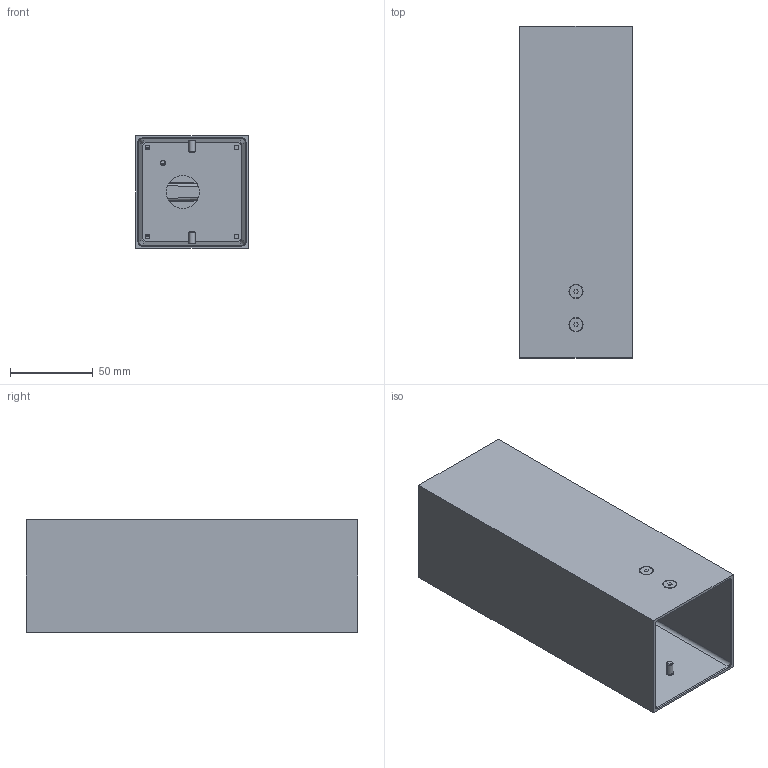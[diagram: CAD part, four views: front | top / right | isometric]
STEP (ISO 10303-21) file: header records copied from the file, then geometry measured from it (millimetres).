
FILE_DESCRIPTION((''),'2;1');
FILE_NAME('A_SW0001','2025-07-23T09:35:47',('Piccioli'),(''),'CREO PARAMETRIC BY PTC INC, 2025010','CREO PARAMETRIC BY PTC INC, 2025010','');
FILE_SCHEMA(('CONFIG_CONTROL_DESIGN'));
Length unit declared in the file: millimetre
Products named in the file (1): A_SW0001
Bounding box: 68 x 200 x 68 mm (x, y, z)
Surface area: 135169.4 mm2 (no closed solid volume)
Topology: 0 solids, 102 shells, 320 faces, 1798 edges, 1568 vertices
Faces by surface type: plane 189, cylinder 57, cone 54, bspline 20
Entity records: 22898 total; most frequent: CARTESIAN_POINT 10567, DIRECTION 2159, ORIENTED_EDGE 2100, EDGE_CURVE 1798, VERTEX_POINT 1568, VECTOR 785, LINE 785, AXIS2_PLACEMENT_3D 687
